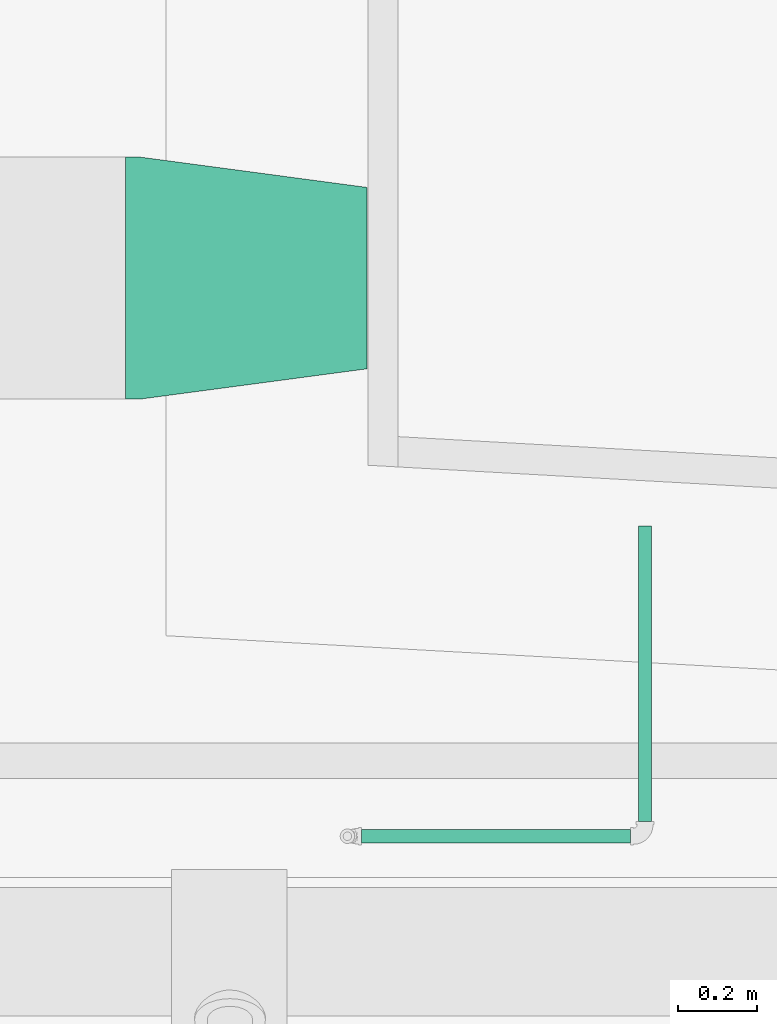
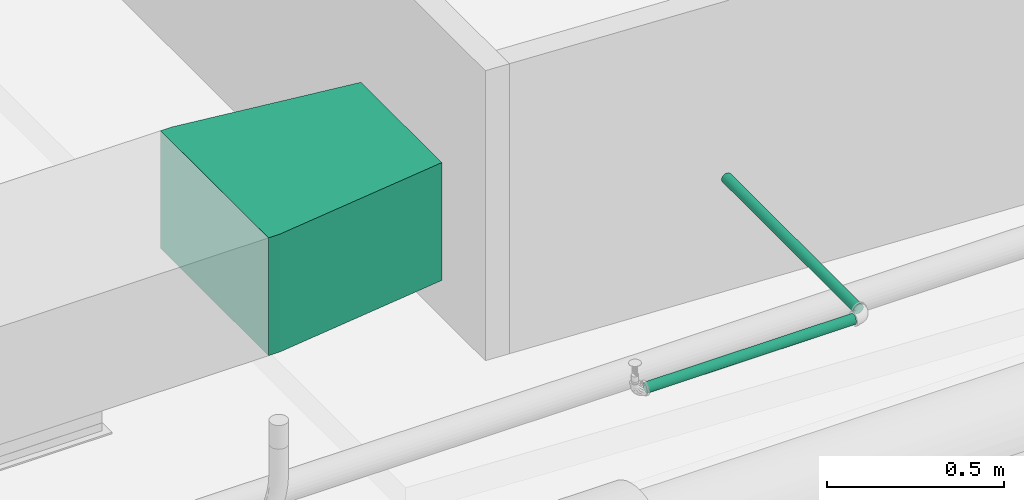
# One storey, part 44 of 108: 2 pipe segments, 1 duct fitting.
"""IFC4 building model written with IfcOpenShell, lengths in feet."""

import ifcopenshell
import ifcopenshell.guid

model = None  # the IFC model being written
_history = None  # IfcOwnerHistory: only IFC2X3 demands one
_inside = {}  # id of a spatial element -> (the spatial element, [elements in it])
_under = {}  # id of a project, library or spatial element -> (it, [spatial elements below it])
_declared = {}  # id of a project -> (the project, [libraries it declares])
_typed = {}  # id of a type object -> (the type object, [elements of that type])
_made_of = {}  # id of a material, layer set ... -> (it, [elements and type objects made of it])


def new_model(schema):
    """Start an empty IFC model of exactly this schema.

    Asked for "IFC4X3", IfcOpenShell would pick the latest addendum, in which some entities
    have other attributes; the version numbers below select the first issue.
    IFC2X3 requires an IfcOwnerHistory on every rooted entity: one is made here for all.
    """
    global model, _history
    if schema == "IFC4X3":
        model = ifcopenshell.file(schema_version=(4, 3, 0, 0))
    else:
        model = ifcopenshell.file(schema=schema)
    _inside.clear()
    _under.clear()
    _declared.clear()
    _typed.clear()
    _made_of.clear()
    _history = None
    if model.schema == "IFC2X3":
        org = make("IfcOrganization", Name="unknown")
        user = make(
            "IfcPersonAndOrganization",
            ThePerson=make("IfcPerson", FamilyName="unknown"),
            TheOrganization=org,
        )
        app = make(
            "IfcApplication",
            ApplicationDeveloper=org,
            Version="unknown",
            ApplicationFullName="unknown",
            ApplicationIdentifier="unknown",
        )
        _history = make(
            "IfcOwnerHistory",
            OwningUser=user,
            OwningApplication=app,
            ChangeAction="ADDED",
            CreationDate=0,
        )
    return model


def make(cls, **values):
    """One entity of the class cls with the attributes given. An attribute that is None is left unset."""
    return model.create_entity(
        cls, **{name: value for name, value in values.items() if value is not None}
    )


def entity(cls, *values):
    """Any entity or typed value of the class cls, its attributes in the order of the schema. None: left unset."""
    e = model.create_entity(cls)
    for i, value in enumerate(values):
        if value is not None:
            e[i] = value
    return e


def rooted(cls, **values):
    """An entity with a GlobalId (a new one), such as an element, a storey or a relation."""
    return make(cls, GlobalId=ifcopenshell.guid.new(), OwnerHistory=_history, **values)


def si_unit(unit_type, name, prefix=None):
    """IfcSIUnit, for example si_unit("LENGTHUNIT", "METRE", prefix="MILLI")."""
    return make("IfcSIUnit", UnitType=unit_type, Prefix=prefix, Name=name)


def converted_unit(unit_type, name, factor, base, dimensions=None, offset=None):
    """IfcConversionBasedUnit, such as the inch: factor (a typed value) times the base unit."""
    return make(
        "IfcConversionBasedUnit"
        if offset is None
        else "IfcConversionBasedUnitWithOffset",
        ConversionOffset=offset,
        Dimensions=None
        if dimensions is None
        else entity("IfcDimensionalExponents", *dimensions),
        UnitType=unit_type,
        Name=name,
        ConversionFactor=make(
            "IfcMeasureWithUnit", ValueComponent=factor, UnitComponent=base
        ),
    )


def derived_unit(unit_type, elements):
    """IfcDerivedUnit: a product of units, each with its exponent."""
    return make(
        "IfcDerivedUnit",
        Elements=[
            make("IfcDerivedUnitElement", Unit=unit, Exponent=power)
            for unit, power in elements
        ],
        UnitType=unit_type,
    )


def assignment(units):
    """IfcUnitAssignment: the units of a project."""
    return None if units is None else make("IfcUnitAssignment", Units=units)


def point(xyz):
    """IfcCartesianPoint."""
    return None if xyz is None else make("IfcCartesianPoint", Coordinates=xyz)


def direction(xyz):
    """IfcDirection."""
    return None if xyz is None else make("IfcDirection", DirectionRatios=xyz)


def frame(location, z_axis=None, x_axis=None):
    """IfcAxis2Placement3D, a coordinate frame: its origin and axes. An axis left out is left unset."""
    return make(
        "IfcAxis2Placement3D",
        Location=point(location),
        Axis=direction(z_axis),
        RefDirection=direction(x_axis),
    )


def frame_2d(location, x_axis=None):
    """IfcAxis2Placement2D, a coordinate frame in the plane: its origin and x axis."""
    return make(
        "IfcAxis2Placement2D", Location=point(location), RefDirection=direction(x_axis)
    )


def origin():
    """The frame at (0, 0, 0) with its axes left unset."""
    return frame((0.0, 0.0, 0.0))


def origin_2d_with_axis():
    """The frame at (0, 0) in the plane with the x axis (1, 0) written out."""
    return frame_2d((0.0, 0.0), x_axis=(1.0, 0.0))


def place(relative_to, where):
    """IfcLocalPlacement: puts the frame where relative to a parent placement (None: the world)."""
    return make(
        "IfcLocalPlacement", PlacementRelTo=relative_to, RelativePlacement=where
    )


def context(
    kind, dimensions, precision=None, world=None, true_north=None, identifier=None
):
    """IfcGeometricRepresentationContext, for example the 3D "Model" context."""
    return make(
        "IfcGeometricRepresentationContext",
        ContextIdentifier=identifier,
        ContextType=kind,
        CoordinateSpaceDimension=dimensions,
        Precision=precision,
        WorldCoordinateSystem=world,
        TrueNorth=true_north,
    )


def subcontext(parent, identifier, kind, view, scale=None):
    """IfcGeometricRepresentationSubContext, for example "Body" below "Model"."""
    return make(
        "IfcGeometricRepresentationSubContext",
        ContextIdentifier=identifier,
        ContextType=kind,
        ParentContext=parent,
        TargetScale=scale,
        TargetView=view,
    )


def project(units=None, contexts=None):
    """IfcProject with its units and contexts."""
    return rooted(
        "IfcProject",
        Name="project",
        RepresentationContexts=contexts,
        UnitsInContext=assignment(units),
    )


def spatial(cls, under=None, at=None, **own):
    """A site, building, storey or space (cls), placed at a placement, below another one or the project."""
    s = rooted(cls, ObjectPlacement=at, **own)
    if under is not None:
        _under.setdefault(under.id(), (under, []))[1].append(s)
    return s


def polyline(points):
    """IfcPolyline through the points."""
    return make("IfcPolyline", Points=[point(p) for p in points])


def profile(cls, at=None, kind="AREA", **sizes):
    """A parametric profile (cls). Its sizes go by their IFC names, for example OverallWidth=200.0."""
    return make(cls, ProfileType=kind, Position=at, **sizes)


def rectangle(**sizes):
    """IfcRectangleProfileDef."""
    return profile("IfcRectangleProfileDef", **sizes)


def circle(**sizes):
    """IfcCircleProfileDef."""
    return profile("IfcCircleProfileDef", **sizes)


def outline(outer, holes=None, kind="AREA"):
    """IfcArbitraryClosedProfileDef: a profile drawn as a closed curve; with holes, ...WithVoids."""
    if holes is None:
        return make("IfcArbitraryClosedProfileDef", ProfileType=kind, OuterCurve=outer)
    return make(
        "IfcArbitraryProfileDefWithVoids",
        ProfileType=kind,
        OuterCurve=outer,
        InnerCurves=holes,
    )


def extrude(swept, where, along, depth):
    """IfcExtrudedAreaSolid: the profile swept, set in the frame where, extruded along a direction by depth."""
    return make(
        "IfcExtrudedAreaSolid",
        SweptArea=swept,
        Position=where,
        ExtrudedDirection=direction(along),
        Depth=depth,
    )


def shape(context_of_items, identifier, shape_type, items):
    """IfcShapeRepresentation: the items that make up one representation, for example the "Body"."""
    return make(
        "IfcShapeRepresentation",
        ContextOfItems=context_of_items,
        RepresentationIdentifier=identifier,
        RepresentationType=shape_type,
        Items=items,
    )


def source(mapping_origin, context_of_items, identifier, shape_type, items):
    """IfcRepresentationMap: a shape defined once, which mapped items show again and again."""
    return make(
        "IfcRepresentationMap",
        MappingOrigin=mapping_origin,
        MappedRepresentation=shape(context_of_items, identifier, shape_type, items),
    )


def transform(
    local_origin,
    x_axis=None,
    y_axis=None,
    z_axis=None,
    scale=None,
    scale2=None,
    scale3=None,
    uniform=True,
):
    """IfcCartesianTransformationOperator3D, or its non-uniform kind. x_axis, y_axis, z_axis: its Axis1, 2, 3."""
    if uniform:
        return make(
            "IfcCartesianTransformationOperator3D",
            Axis1=direction(x_axis),
            Axis2=direction(y_axis),
            LocalOrigin=point(local_origin),
            Scale=scale,
            Axis3=direction(z_axis),
        )
    return make(
        "IfcCartesianTransformationOperator3DnonUniform",
        Axis1=direction(x_axis),
        Axis2=direction(y_axis),
        LocalOrigin=point(local_origin),
        Scale=scale,
        Axis3=direction(z_axis),
        Scale2=scale2,
        Scale3=scale3,
    )


def mapped(mapping_source, mapping_target):
    """IfcMappedItem: shows the shape of a source again, moved by a transform."""
    return make(
        "IfcMappedItem", MappingSource=mapping_source, MappingTarget=mapping_target
    )


def made_of(thing, what):
    """Note that an element or type object is made of a material, layer set ...; save() writes the relation."""
    if what is not None:
        _made_of.setdefault(what.id(), (what, []))[1].append(thing)
    return thing


def type_object(cls, material=None, **own):
    """A type object (cls), such as IfcWallType, which elements share."""
    return made_of(rooted(cls, **own), material)


def type_shapes(of_type, sources):
    """Give a type object the sources (RepresentationMaps) that its elements show as mapped items."""
    of_type.RepresentationMaps = sources


def element(
    cls,
    number,
    at=None,
    inside=None,
    cuts=None,
    type_object=None,
    material=None,
    context=None,
    identifier="Body",
    shape_type=None,
    held_by="IfcProductDefinitionShape",
    body=None,
    shapes=None,
    **own,
):
    """One element of the class cls, such as IfcWall. Its Tag is "e" and its number.

    at: its placement. inside: the storey or other place that contains it. cuts: it is an
    opening in that element (IfcRelVoidsElement). A single representation is given by context,
    identifier, shape_type and body (its items); several are given by shapes. held_by: the class
    of the entity that holds the representations. save() writes the other relations.
    """
    e = rooted(cls, Tag="e%d" % number, ObjectPlacement=at, **own)
    if body is not None:
        shapes = [shape(context, identifier, shape_type, body)]
    if shapes is not None:
        e.Representation = make(held_by, Representations=shapes)
    if inside is not None:
        _inside.setdefault(inside.id(), (inside, []))[1].append(e)
    if cuts is not None:
        rooted(
            "IfcRelVoidsElement", RelatingBuildingElement=cuts, RelatedOpeningElement=e
        )
    if type_object is not None:
        _typed.setdefault(type_object.id(), (type_object, []))[1].append(e)
    return made_of(e, material)


def aggregate(whole, parts):
    """IfcRelAggregates: a whole, such as a stair, and the parts it consists of."""
    return rooted("IfcRelAggregates", RelatingObject=whole, RelatedObjects=parts)


def save(model, path):
    """Write the relations noted so far, then the file.

    IfcRelAggregates (storeys below a building ...), IfcRelContainedInSpatialStructure (elements
    in a storey), IfcRelDefinesByType, IfcRelAssociatesMaterial and IfcRelDeclares: one each for
    every whole, place, type object, material and project.
    """
    for whole, parts in _under.values():
        aggregate(whole, parts)
    for where, things in _inside.values():
        rooted(
            "IfcRelContainedInSpatialStructure",
            RelatedElements=things,
            RelatingStructure=where,
        )
    for kind, things in _typed.values():
        rooted("IfcRelDefinesByType", RelatedObjects=things, RelatingType=kind)
    for what, things in _made_of.values():
        rooted("IfcRelAssociatesMaterial", RelatedObjects=things, RelatingMaterial=what)
    for by, libraries in _declared.values():
        rooted("IfcRelDeclares", RelatingContext=by, RelatedDefinitions=libraries)
    model.write(path)


model = new_model("IFC4")

# Units and contexts
model_context = context("Model", 3, precision=0.0001, world=origin(), true_north=direction((6.12303176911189e-17, 1.0)))
body_context = subcontext(model_context, "Body", "Model", "MODEL_VIEW")
ifc_project = project(units=[converted_unit("LENGTHUNIT", "FOOT", entity("IfcRatioMeasure", 0.3048), si_unit("LENGTHUNIT", "METRE"), dimensions=[1, 0, 0, 0, 0, 0, 0]), converted_unit("AREAUNIT", "SQUARE FOOT", entity("IfcRatioMeasure", 0.09290304), si_unit("AREAUNIT", "SQUARE_METRE"), dimensions=[2, 0, 0, 0, 0, 0, 0]), converted_unit("VOLUMEUNIT", "CUBIC FOOT", entity("IfcRatioMeasure", 0.028316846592), si_unit("VOLUMEUNIT", "CUBIC_METRE"), dimensions=[3, 0, 0, 0, 0, 0, 0]), converted_unit("PLANEANGLEUNIT", "DEGREE", entity("IfcRatioMeasure", 0.0174532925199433), si_unit("PLANEANGLEUNIT", "RADIAN"), dimensions=[0, 0, 0, 0, 0, 0, 0]), si_unit("MASSUNIT", "GRAM", prefix="KILO"), derived_unit("MASSDENSITYUNIT", [(si_unit("MASSUNIT", "GRAM", prefix="KILO"), 1), (si_unit("LENGTHUNIT", "METRE"), -3)]), si_unit("TIMEUNIT", "SECOND"), si_unit("FREQUENCYUNIT", "HERTZ"), si_unit("THERMODYNAMICTEMPERATUREUNIT", "DEGREE_CELSIUS"), derived_unit("THERMALTRANSMITTANCEUNIT", [(si_unit("MASSUNIT", "GRAM", prefix="KILO"), 1), (si_unit("THERMODYNAMICTEMPERATUREUNIT", "KELVIN"), -1), (si_unit("TIMEUNIT", "SECOND"), -3)]), derived_unit("VOLUMETRICFLOWRATEUNIT", [(si_unit("LENGTHUNIT", "METRE"), 3), (si_unit("TIMEUNIT", "SECOND"), -1)]), si_unit("ELECTRICCURRENTUNIT", "AMPERE"), si_unit("ELECTRICVOLTAGEUNIT", "VOLT"), si_unit("POWERUNIT", "WATT"), si_unit("FORCEUNIT", "NEWTON"), si_unit("ILLUMINANCEUNIT", "LUX"), si_unit("LUMINOUSFLUXUNIT", "LUMEN"), si_unit("LUMINOUSINTENSITYUNIT", "CANDELA"), derived_unit("USERDEFINED", [(si_unit("MASSUNIT", "GRAM", prefix="KILO"), -1), (si_unit("LENGTHUNIT", "METRE"), -2), (si_unit("TIMEUNIT", "SECOND"), 3), (si_unit("LUMINOUSFLUXUNIT", "LUMEN"), 1)]), derived_unit("LINEARVELOCITYUNIT", [(si_unit("LENGTHUNIT", "METRE"), 1), (si_unit("TIMEUNIT", "SECOND"), -1)]), si_unit("PRESSUREUNIT", "PASCAL"), derived_unit("USERDEFINED", [(si_unit("LENGTHUNIT", "METRE"), -2), (si_unit("MASSUNIT", "GRAM", prefix="KILO"), 1), (si_unit("TIMEUNIT", "SECOND"), -2)])], contexts=[model_context])

# Site, building, storey
site_placement = place(None, origin())
site = spatial("IfcSite", under=ifc_project, at=site_placement, Name="Default", CompositionType="ELEMENT")
building_placement = place(site_placement, origin())
building = spatial("IfcBuilding", under=site, at=building_placement, CompositionType="ELEMENT")
storey_placement = place(building_placement, frame((0.0, 0.0, 168.0)))
storey = spatial("IfcBuildingStorey", under=building, at=storey_placement, Name="Level 15", CompositionType="ELEMENT", Elevation=168.0)

# Duct fitting
duct_fitting_type = type_object("IfcDuctFittingType", Name="Standard", PredefinedType="NOTDEFINED")
shared_shape = source(origin(), body_context, "Body", "SweptSolid", [
    extrude(rectangle(XDim=0.00260416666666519, YDim=1.5, at=origin_2d_with_axis()), frame((1.99869791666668, 0.0, -0.666666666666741), z_axis=(0.0, 0.0, 1.0), x_axis=(-1.0, 0.0, 0.0)), (0.0, 0.0, 1.0), 1.33333333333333),
    extrude(rectangle(XDim=0.125, YDim=2.0, at=origin_2d_with_axis()), frame((0.0625000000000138, 0.0, -0.666666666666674), z_axis=(0.0, 0.0, 1.0), x_axis=(-1.0, 0.0, 0.0)), (0.0, 0.0, 1.0), 1.33333333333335),
    extrude(outline(polyline([(-0.82870469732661, -0.86730332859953), (1.06030725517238, -0.86730332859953), (0.795618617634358, 1.11510427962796), (-1.02722117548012, 0.619502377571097), (-0.82870469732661, -0.86730332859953)])), frame((1.06119791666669, 0.0, -0.666666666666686), z_axis=(0.0, 0.0, 1.0), x_axis=(-0.99120380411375, 0.132344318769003, 0.0)), (0.0, 0.0, 1.0), 1.33333333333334),
])
type_shapes(duct_fitting_type, [shared_shape])
duct_fitting_placement = place(storey_placement, frame((-20.4266870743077, -11.1821076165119, 9.89583333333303)))
element("IfcDuctFitting", 1, at=duct_fitting_placement, inside=storey, type_object=duct_fitting_type, Name="Rectangular Length Eccentric Transition - DTL:Standard", ObjectType="Rectangular Length Eccentric Transition - DTL:Standard", PredefinedType="NOTDEFINED", context=body_context, shape_type="MappedRepresentation", body=[
    mapped(shared_shape, transform((0.0, 0.0, 0.0), scale=1.0)),
])

# Pipe segments
pipe_segment_type = type_object("IfcPipeSegmentType", Name="Pipe Types:Fire Prot Sched 10 Main", PredefinedType="NOTDEFINED")
pipe_segment_1_placement = place(storey_placement, frame((-18.4738959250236, -15.8555894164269, 10.3149745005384)))
element("IfcPipeSegment", 2, at=pipe_segment_1_placement, inside=storey, type_object=pipe_segment_type, Name="Pipe Types:Fire Prot Sched 10 Main", ObjectType="Pipe Types:Fire Prot Sched 10 Main", PredefinedType="NOTDEFINED", context=body_context, shape_type="SweptSolid", body=[
    extrude(circle(Radius=0.0547916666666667, at=origin_2d_with_axis()), frame((0.0, 0.0600254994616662, 0.0600254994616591), z_axis=(1.0, 0.0, 0.0), x_axis=(0.0, 1.0, 0.0)), (0.0, 0.0, 1.0), 2.22241279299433),
])
pipe_segment_2_placement = place(storey_placement, frame((-16.190297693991, -15.6743529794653, 10.3149745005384)))
element("IfcPipeSegment", 3, at=pipe_segment_2_placement, inside=storey, type_object=pipe_segment_type, Name="Pipe Types:Fire Prot Sched 10 Main", ObjectType="Pipe Types:Fire Prot Sched 10 Main", PredefinedType="NOTDEFINED", context=body_context, shape_type="SweptSolid", body=[
    extrude(circle(Radius=0.0547916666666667, at=origin_2d_with_axis()), frame((0.0600254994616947, 0.0, 0.0600254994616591), z_axis=(0.0, 1.0, 0.0), x_axis=(1.0, 0.0, 0.0)), (0.0, 0.0, 1.0), 2.44128906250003),
])

save(model, "model.ifc")
